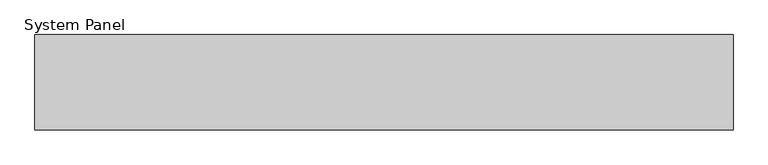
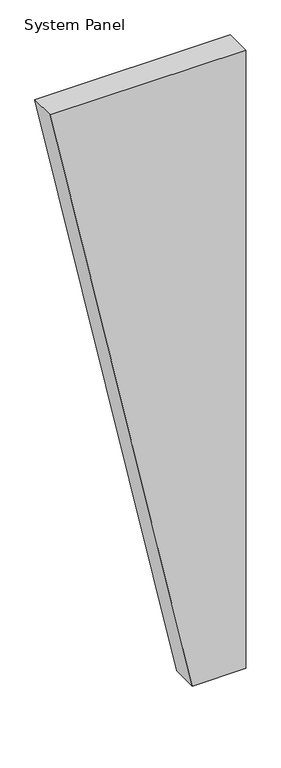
"""IFC4 building model written with IfcOpenShell, lengths in millimetres: plate geometry, System Panel : MetecnoPanel_150mm_Plain_Surfmist."""

from ifc_helpers import new_model, si_unit, frame, origin, place, context, project, spatial, polyline, outline, extrude, source, transform, mapped, element, save


def system_panel_694ff7dd(model_context):
    return source(origin(), model_context, "Body", "SweptSolid", [
        extrude(outline(polyline([(0.0, 250.0), (0.0, 550.0), (3679.9704237, 550.0), (3679.9704237, -550.0), (0.0, 250.0)])), frame((0.0, -150.0, 0.0), z_axis=(0.0, 1.0, 0.0), x_axis=(0.0, 0.0, 1.0)), (0.0, 0.0, 1.0), 150.0),
    ])


if __name__ == "__main__":
    model = new_model("IFC4")
    model_context = context("Model", 3, world=origin())
    ifc_project = project(units=[si_unit("LENGTHUNIT", "METRE", prefix="MILLI")], contexts=[model_context])
    site = spatial("IfcSite", under=ifc_project)
    building = spatial("IfcBuilding", under=site)
    placement = place(None, origin())
    system_panel_shape = system_panel_694ff7dd(model_context)
    element("IfcPlate", 1, ObjectType="System Panel : MetecnoPanel_150mm_Plain_Surfmist", at=placement, inside=building, context=model_context, shape_type="MappedRepresentation", body=[
        mapped(system_panel_shape, transform((0.0, 0.0, 0.0), x_axis=(1.0, 0.0, 0.0), y_axis=(0.0, 1.0, 0.0), z_axis=(0.0, 0.0, 1.0))),
    ])
    save(model, "model.ifc")
